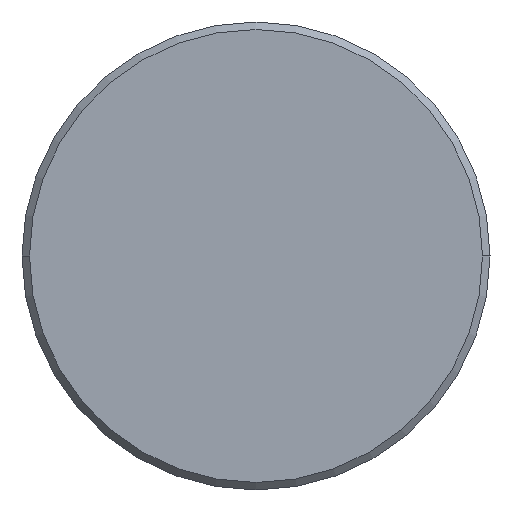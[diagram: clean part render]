
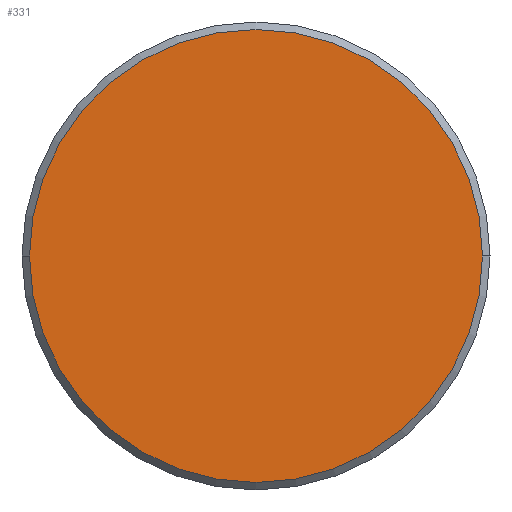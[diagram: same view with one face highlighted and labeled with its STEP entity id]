
A CAD part, left-side view. The second image highlights one B-rep face of the part: STEP entity #331.
In plain terms, the highlighted planar face has unit normal (-1, 0, 0).
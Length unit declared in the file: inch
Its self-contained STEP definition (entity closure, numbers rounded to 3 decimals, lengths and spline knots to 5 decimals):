
#2 = DIRECTION ( 'NONE',  ( 0., -1., 0. ) ) ;
#15 = DIRECTION ( 'NONE',  ( 0., -1., 0. ) ) ;
#37 = ORIENTED_EDGE ( 'NONE', *, *, #212, .T. ) ;
#41 = DIRECTION ( 'NONE',  ( -1., 0., 0. ) ) ;
#50 = CARTESIAN_POINT ( 'NONE',  ( 0., 0., 0. ) ) ;
#54 = DIRECTION ( 'NONE',  ( -1., 0., 0. ) ) ;
#64 = VERTEX_POINT ( 'NONE', #240 ) ;
#122 = EDGE_LOOP ( 'NONE', ( #325, #37 ) ) ;
#160 = PLANE ( 'NONE',  #377 ) ;
#166 = FACE_OUTER_BOUND ( 'NONE', #122, .T. ) ;
#197 = DIRECTION ( 'NONE',  ( -1., 0., 0. ) ) ;
#202 = AXIS2_PLACEMENT_3D ( 'NONE', #256, #54, #15 ) ;
#212 = EDGE_CURVE ( 'NONE', #252, #64, #213, .T. ) ;
#213 = CIRCLE ( 'NONE', #281, 0.121 ) ;
#240 = CARTESIAN_POINT ( 'NONE',  ( 0., 0.121, 0. ) ) ;
#249 = CARTESIAN_POINT ( 'NONE',  ( 0., -0.121, 0. ) ) ;
#252 = VERTEX_POINT ( 'NONE', #249 ) ;
#256 = CARTESIAN_POINT ( 'NONE',  ( 0., 0., 0. ) ) ;
#257 = DIRECTION ( 'NONE',  ( 0., -1., 0. ) ) ;
#266 = EDGE_CURVE ( 'NONE', #64, #252, #335, .T. ) ;
#281 = AXIS2_PLACEMENT_3D ( 'NONE', #328, #41, #2 ) ;
#325 = ORIENTED_EDGE ( 'NONE', *, *, #266, .T. ) ;
#328 = CARTESIAN_POINT ( 'NONE',  ( 0., 0., 0. ) ) ;
#331 = ADVANCED_FACE ( 'NONE', ( #166 ), #160, .T. ) ;
#335 = CIRCLE ( 'NONE', #202, 0.121 ) ;
#377 = AXIS2_PLACEMENT_3D ( 'NONE', #50, #197, #257 ) ;
